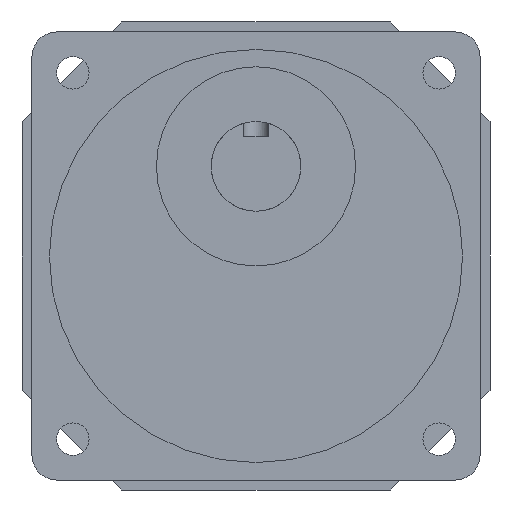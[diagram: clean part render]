
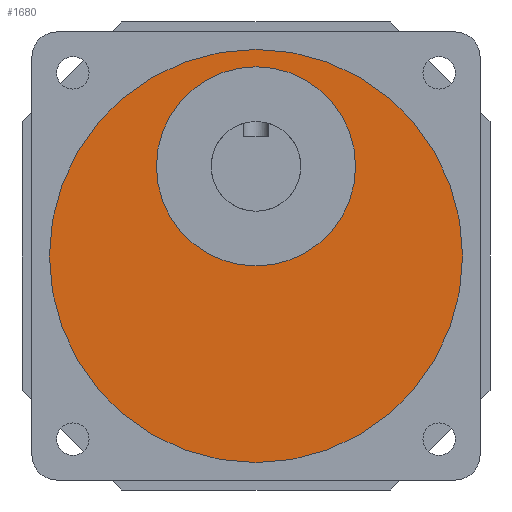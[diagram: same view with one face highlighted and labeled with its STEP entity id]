
A CAD part, front view. The second image highlights one B-rep face of the part: STEP entity #1680.
In plain terms, the highlighted planar face has unit normal (0, -1, 0).
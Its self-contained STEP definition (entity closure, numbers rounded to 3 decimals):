
#147 = EDGE_LOOP ( 'NONE', ( #2976, #1216 ) ) ;
#231 = CIRCLE ( 'NONE', #4622, 41.5 ) ;
#285 = FACE_BOUND ( 'NONE', #147, .T. ) ;
#550 = EDGE_LOOP ( 'NONE', ( #5298, #5161 ) ) ;
#605 = CARTESIAN_POINT ( 'NONE',  ( 45., -83., 45. ) ) ;
#713 = AXIS2_PLACEMENT_3D ( 'NONE', #4294, #2482, #5626 ) ;
#714 = EDGE_CURVE ( 'NONE', #2227, #2950, #2854, .T. ) ;
#796 = DIRECTION ( 'NONE',  ( 0., -1., 0. ) ) ;
#1064 = AXIS2_PLACEMENT_3D ( 'NONE', #4763, #1694, #5206 ) ;
#1216 = ORIENTED_EDGE ( 'NONE', *, *, #2809, .F. ) ;
#1244 = DIRECTION ( 'NONE',  ( 0., 0., -1. ) ) ;
#1314 = CARTESIAN_POINT ( 'NONE',  ( 45., -83., 3.5 ) ) ;
#1338 = CARTESIAN_POINT ( 'NONE',  ( 45., -83., 83. ) ) ;
#1495 = DIRECTION ( 'NONE',  ( 0., 0., -1. ) ) ;
#1624 = CARTESIAN_POINT ( 'NONE',  ( 45., -83., 86.5 ) ) ;
#1680 = ADVANCED_FACE ( 'NONE', ( #285, #3720 ), #3719, .T. ) ;
#1694 = DIRECTION ( 'NONE',  ( 0., -1., 0. ) ) ;
#2227 = VERTEX_POINT ( 'NONE', #1624 ) ;
#2426 = VERTEX_POINT ( 'NONE', #1338 ) ;
#2482 = DIRECTION ( 'NONE',  ( 0., -1., 0. ) ) ;
#2700 = VERTEX_POINT ( 'NONE', #4655 ) ;
#2809 = EDGE_CURVE ( 'NONE', #2700, #2426, #2839, .T. ) ;
#2839 = CIRCLE ( 'NONE', #713, 20. ) ;
#2854 = CIRCLE ( 'NONE', #4519, 41.5 ) ;
#2950 = VERTEX_POINT ( 'NONE', #1314 ) ;
#2976 = ORIENTED_EDGE ( 'NONE', *, *, #4840, .F. ) ;
#3229 = DIRECTION ( 'NONE',  ( 0., -1., 0. ) ) ;
#3605 = DIRECTION ( 'NONE',  ( 0., -1., 0. ) ) ;
#3719 = PLANE ( 'NONE',  #3797 ) ;
#3720 = FACE_OUTER_BOUND ( 'NONE', #550, .T. ) ;
#3797 = AXIS2_PLACEMENT_3D ( 'NONE', #605, #3229, #1495 ) ;
#3869 = CIRCLE ( 'NONE', #1064, 20. ) ;
#3992 = DIRECTION ( 'NONE',  ( 0., 0., -1. ) ) ;
#4294 = CARTESIAN_POINT ( 'NONE',  ( 45., -83., 63. ) ) ;
#4489 = CARTESIAN_POINT ( 'NONE',  ( 45., -83., 45. ) ) ;
#4519 = AXIS2_PLACEMENT_3D ( 'NONE', #4782, #796, #1244 ) ;
#4622 = AXIS2_PLACEMENT_3D ( 'NONE', #4489, #3605, #3992 ) ;
#4655 = CARTESIAN_POINT ( 'NONE',  ( 45., -83., 43. ) ) ;
#4763 = CARTESIAN_POINT ( 'NONE',  ( 45., -83., 63. ) ) ;
#4782 = CARTESIAN_POINT ( 'NONE',  ( 45., -83., 45. ) ) ;
#4840 = EDGE_CURVE ( 'NONE', #2426, #2700, #3869, .T. ) ;
#4897 = EDGE_CURVE ( 'NONE', #2950, #2227, #231, .T. ) ;
#5161 = ORIENTED_EDGE ( 'NONE', *, *, #714, .T. ) ;
#5206 = DIRECTION ( 'NONE',  ( 0., 0., -1. ) ) ;
#5298 = ORIENTED_EDGE ( 'NONE', *, *, #4897, .T. ) ;
#5626 = DIRECTION ( 'NONE',  ( 0., 0., -1. ) ) ;
